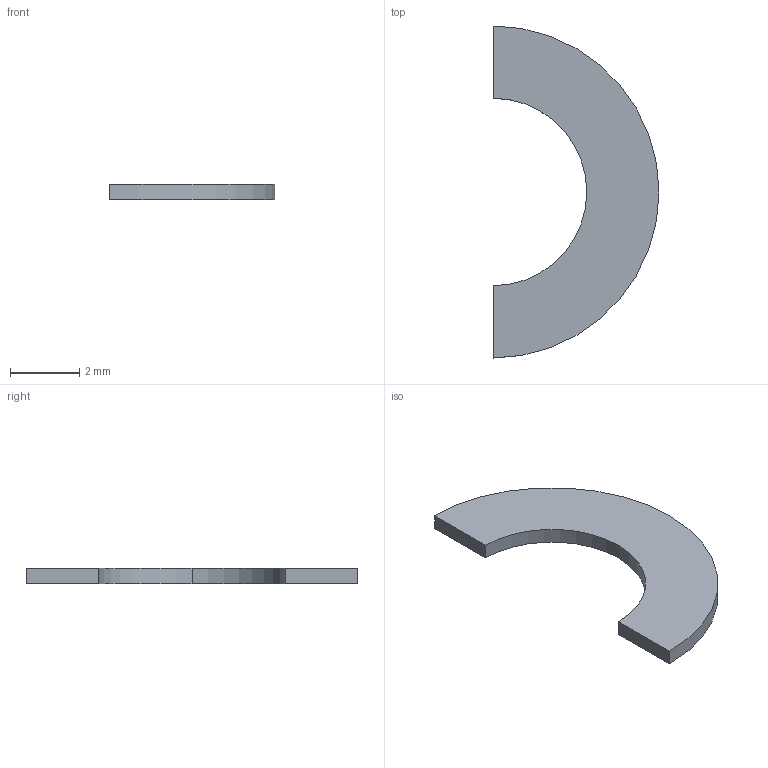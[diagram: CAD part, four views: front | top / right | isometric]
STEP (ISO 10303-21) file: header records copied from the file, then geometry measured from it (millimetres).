
FILE_DESCRIPTION(('Open CASCADE Model'),'2;1');
FILE_NAME('Open CASCADE Shape Model','2026-09-24T19:52:59',('Author'),( 'Open CASCADE'),'Open CASCADE STEP processor 7.8','Open CASCADE 7.8' ,'Unknown');
FILE_SCHEMA(('AUTOMOTIVE_DESIGN { 1 0 10303 214 1 1 1 1 }'));
Length unit declared in the file: millimetre
Products named in the file (1): Open CASCADE STEP translator 7.8 46
Bounding box: 4.8 x 9.6 x 0.45 mm (x, y, z)
Volume: 11.1 mm3; surface area: 61.8 mm2
Topology: 1 solids, 1 shells, 8 faces, 18 edges, 12 vertices
Faces by surface type: cylinder 4, plane 4
Entity records: 458 total; most frequent: CARTESIAN_POINT 91, DIRECTION 64, ORIENTED_EDGE 36, PCURVE 36, DEFINITIONAL_REPRESENTATION 36, LINE 22, VECTOR 22, EDGE_CURVE 18
